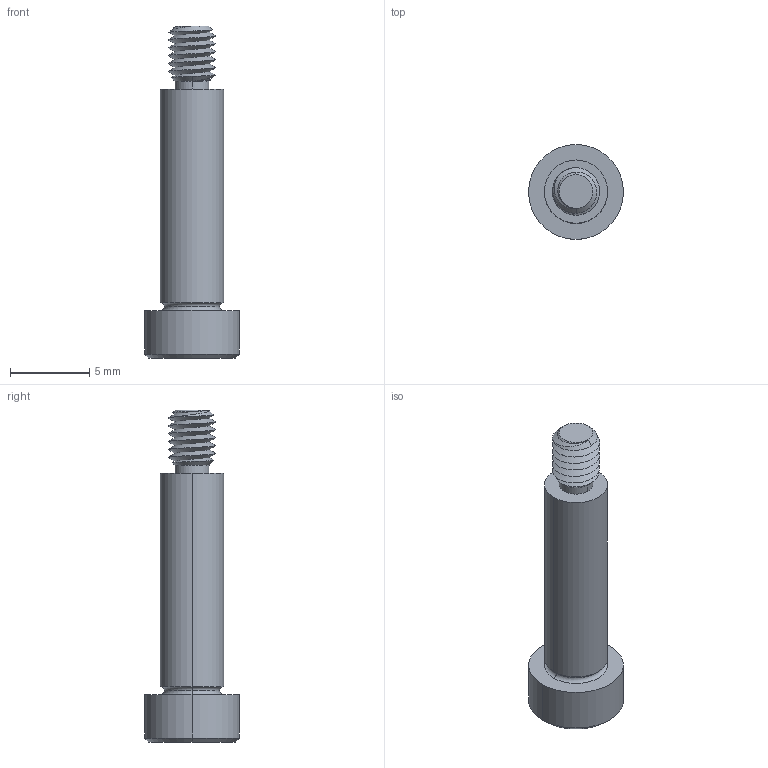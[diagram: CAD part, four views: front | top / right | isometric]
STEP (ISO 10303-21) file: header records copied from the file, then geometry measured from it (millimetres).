
FILE_DESCRIPTION (( 'STEP AP203' ), '1' );
FILE_NAME ('P0130.040-014-B2.step', '2021-11-09T21:04:20', ( '' ), ( '' ), 'SwSTEP 2.0', 'SolidWorks 2019', '' );
FILE_SCHEMA (( 'CONFIG_CONTROL_DESIGN' ));
Length unit declared in the file: millimetre
Products named in the file (1): P0130.040-014-B2
Bounding box: 6 x 6 x 21 mm (x, y, z)
Volume: 271.1 mm3; surface area: 360.3 mm2
Topology: 1 solids, 1 shells, 54 faces, 124 edges, 73 vertices
Faces by surface type: cylinder 18, plane 16, cone 14, torus 4, bspline 2
Entity records: 2218 total; most frequent: CARTESIAN_POINT 1016, ORIENTED_EDGE 244, DIRECTION 229, EDGE_CURVE 122, AXIS2_PLACEMENT_3D 93, VERTEX_POINT 73, EDGE_LOOP 57, ADVANCED_FACE 54
